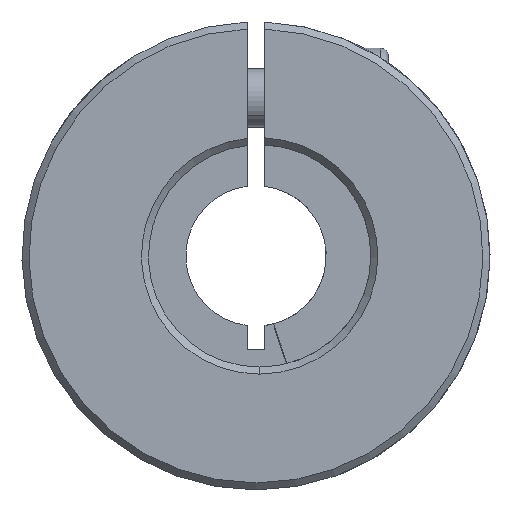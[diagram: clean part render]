
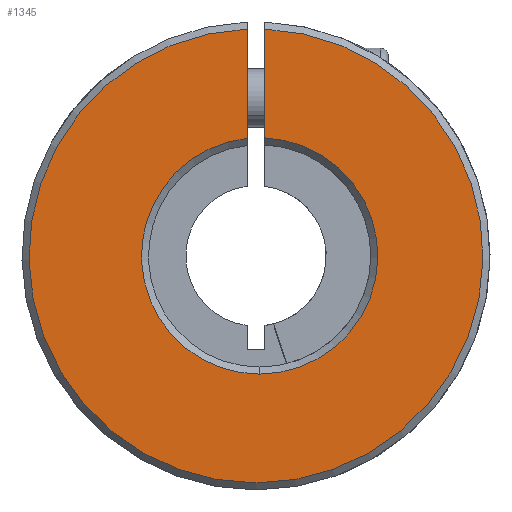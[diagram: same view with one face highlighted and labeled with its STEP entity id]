
A CAD part, front view. The second image highlights one B-rep face of the part: STEP entity #1345.
In plain terms, the highlighted planar face has unit normal (0, -1, 0).
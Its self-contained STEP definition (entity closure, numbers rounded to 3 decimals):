
#94 = CARTESIAN_POINT ( 'NONE',  ( -0.75, -30., 10.044 ) ) ;
#108 = EDGE_CURVE ( 'NONE', #1230, #2320, #4561, .T. ) ;
#235 = DIRECTION ( 'NONE',  ( 0., 1., 0. ) ) ;
#552 = AXIS2_PLACEMENT_3D ( 'NONE', #3241, #5977, #2705 ) ;
#712 = CARTESIAN_POINT ( 'NONE',  ( 0., -30., 0. ) ) ;
#853 = VECTOR ( 'NONE', #4534, 1000. ) ;
#872 = VERTEX_POINT ( 'NONE', #3099 ) ;
#1138 = ORIENTED_EDGE ( 'NONE', *, *, #4288, .T. ) ;
#1181 = DIRECTION ( 'NONE',  ( 0., 1., 0. ) ) ;
#1230 = VERTEX_POINT ( 'NONE', #5232 ) ;
#1233 = CIRCLE ( 'NONE', #1631, 10.1 ) ;
#1263 = ORIENTED_EDGE ( 'NONE', *, *, #5480, .T. ) ;
#1345 = ADVANCED_FACE ( 'NONE', ( #5287 ), #3028, .F. ) ;
#1504 = CARTESIAN_POINT ( 'NONE',  ( 0.314, -30., 0. ) ) ;
#1530 = CIRCLE ( 'NONE', #552, 19.4 ) ;
#1631 = AXIS2_PLACEMENT_3D ( 'NONE', #1504, #235, #4313 ) ;
#1663 = DIRECTION ( 'NONE',  ( 0., 0., -1. ) ) ;
#1750 = VERTEX_POINT ( 'NONE', #3872 ) ;
#1807 = AXIS2_PLACEMENT_3D ( 'NONE', #712, #3971, #5793 ) ;
#1945 = AXIS2_PLACEMENT_3D ( 'NONE', #5331, #1181, #3483 ) ;
#2162 = ORIENTED_EDGE ( 'NONE', *, *, #2783, .T. ) ;
#2238 = EDGE_CURVE ( 'NONE', #872, #1750, #1530, .T. ) ;
#2320 = VERTEX_POINT ( 'NONE', #4274 ) ;
#2627 = VERTEX_POINT ( 'NONE', #94 ) ;
#2705 = DIRECTION ( 'NONE',  ( 0., 0., 1. ) ) ;
#2783 = EDGE_CURVE ( 'NONE', #2627, #872, #4923, .T. ) ;
#3028 = PLANE ( 'NONE',  #1807 ) ;
#3099 = CARTESIAN_POINT ( 'NONE',  ( -0.75, -30., 19.385 ) ) ;
#3241 = CARTESIAN_POINT ( 'NONE',  ( 0., -30., 0. ) ) ;
#3270 = EDGE_LOOP ( 'NONE', ( #1263, #4676, #1138, #2162, #5579 ) ) ;
#3483 = DIRECTION ( 'NONE',  ( 0., 0., 1. ) ) ;
#3867 = VECTOR ( 'NONE', #1663, 1000. ) ;
#3872 = CARTESIAN_POINT ( 'NONE',  ( 0.75, -30., 19.385 ) ) ;
#3971 = DIRECTION ( 'NONE',  ( 0., 1., 0. ) ) ;
#4016 = LINE ( 'NONE', #4499, #3867 ) ;
#4274 = CARTESIAN_POINT ( 'NONE',  ( 0.314, -30., -10.1 ) ) ;
#4288 = EDGE_CURVE ( 'NONE', #2320, #2627, #1233, .T. ) ;
#4313 = DIRECTION ( 'NONE',  ( 0., 0., 1. ) ) ;
#4499 = CARTESIAN_POINT ( 'NONE',  ( 0.75, -30., -8. ) ) ;
#4534 = DIRECTION ( 'NONE',  ( 0., 0., 1. ) ) ;
#4561 = CIRCLE ( 'NONE', #1945, 10.1 ) ;
#4676 = ORIENTED_EDGE ( 'NONE', *, *, #108, .T. ) ;
#4923 = LINE ( 'NONE', #5533, #853 ) ;
#5232 = CARTESIAN_POINT ( 'NONE',  ( 0.75, -30., 10.091 ) ) ;
#5287 = FACE_OUTER_BOUND ( 'NONE', #3270, .T. ) ;
#5331 = CARTESIAN_POINT ( 'NONE',  ( 0.314, -30., 0. ) ) ;
#5480 = EDGE_CURVE ( 'NONE', #1750, #1230, #4016, .T. ) ;
#5533 = CARTESIAN_POINT ( 'NONE',  ( -0.75, -30., -8. ) ) ;
#5579 = ORIENTED_EDGE ( 'NONE', *, *, #2238, .T. ) ;
#5793 = DIRECTION ( 'NONE',  ( 0., 0., 1. ) ) ;
#5977 = DIRECTION ( 'NONE',  ( 0., -1., 0. ) ) ;
